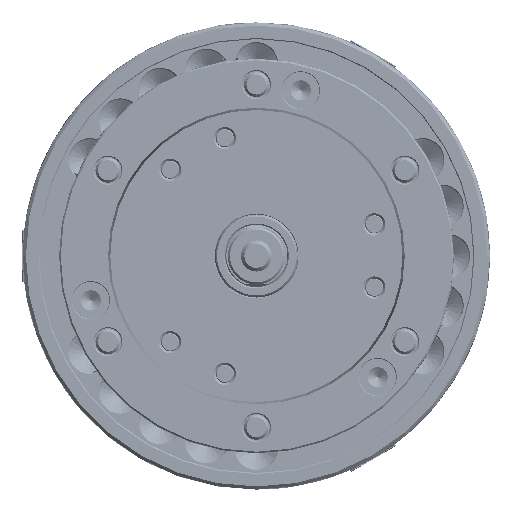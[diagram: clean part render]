
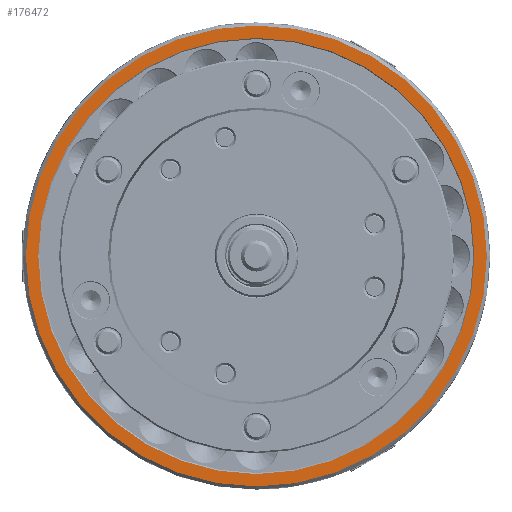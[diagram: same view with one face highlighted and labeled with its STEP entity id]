
A CAD part, left-side view. The second image highlights one B-rep face of the part: STEP entity #176472.
In plain terms, the highlighted planar face has unit normal (-1, 0, 0).
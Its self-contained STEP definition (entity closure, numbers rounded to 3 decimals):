
#1367 = CARTESIAN_POINT ( 'NONE',  ( -116., 0., 0. ) ) ;
#10298 = AXIS2_PLACEMENT_3D ( 'NONE', #47309, #185845, #205215 ) ;
#17346 = PLANE ( 'NONE',  #191134 ) ;
#21084 = CARTESIAN_POINT ( 'NONE',  ( -116., 0., -222. ) ) ;
#28638 = EDGE_CURVE ( 'NONE', #47845, #189053, #178661, .T. ) ;
#36732 = FACE_BOUND ( 'NONE', #57390, .T. ) ;
#39288 = FACE_OUTER_BOUND ( 'NONE', #193377, .T. ) ;
#44017 = DIRECTION ( 'NONE',  ( -1., 0., 0. ) ) ;
#47309 = CARTESIAN_POINT ( 'NONE',  ( -116., 0., 0. ) ) ;
#47845 = VERTEX_POINT ( 'NONE', #21084 ) ;
#50626 = VERTEX_POINT ( 'NONE', #131696 ) ;
#57390 = EDGE_LOOP ( 'NONE', ( #91051, #65603 ) ) ;
#59275 = EDGE_CURVE ( 'NONE', #189053, #47845, #211540, .T. ) ;
#59932 = ORIENTED_EDGE ( 'NONE', *, *, #28638, .T. ) ;
#65237 = EDGE_CURVE ( 'NONE', #117627, #50626, #163138, .T. ) ;
#65603 = ORIENTED_EDGE ( 'NONE', *, *, #65237, .F. ) ;
#67176 = CARTESIAN_POINT ( 'NONE',  ( -116., 0., -210. ) ) ;
#70494 = EDGE_CURVE ( 'NONE', #50626, #117627, #118729, .T. ) ;
#79314 = AXIS2_PLACEMENT_3D ( 'NONE', #177795, #214046, #120763 ) ;
#91051 = ORIENTED_EDGE ( 'NONE', *, *, #70494, .F. ) ;
#108170 = ORIENTED_EDGE ( 'NONE', *, *, #59275, .T. ) ;
#108238 = AXIS2_PLACEMENT_3D ( 'NONE', #1367, #44017, #159308 ) ;
#117627 = VERTEX_POINT ( 'NONE', #67176 ) ;
#118729 = CIRCLE ( 'NONE', #127037, 210. ) ;
#120763 = DIRECTION ( 'NONE',  ( 0., 0., 1. ) ) ;
#127037 = AXIS2_PLACEMENT_3D ( 'NONE', #163195, #146298, #242079 ) ;
#131696 = CARTESIAN_POINT ( 'NONE',  ( -116., 0., 210. ) ) ;
#140207 = DIRECTION ( 'NONE',  ( 0., 0., -1. ) ) ;
#146298 = DIRECTION ( 'NONE',  ( -1., 0., 0. ) ) ;
#148672 = CARTESIAN_POINT ( 'NONE',  ( -116., 0., 222. ) ) ;
#157092 = DIRECTION ( 'NONE',  ( 1., 0., 0. ) ) ;
#159308 = DIRECTION ( 'NONE',  ( 0., 0., 1. ) ) ;
#163138 = CIRCLE ( 'NONE', #10298, 210. ) ;
#163195 = CARTESIAN_POINT ( 'NONE',  ( -116., 0., 0. ) ) ;
#176472 = ADVANCED_FACE ( 'NONE', ( #36732, #39288 ), #17346, .F. ) ;
#177795 = CARTESIAN_POINT ( 'NONE',  ( -116., 0., 0. ) ) ;
#178661 = CIRCLE ( 'NONE', #79314, 222. ) ;
#185845 = DIRECTION ( 'NONE',  ( -1., 0., 0. ) ) ;
#189053 = VERTEX_POINT ( 'NONE', #148672 ) ;
#191134 = AXIS2_PLACEMENT_3D ( 'NONE', #219166, #157092, #140207 ) ;
#193377 = EDGE_LOOP ( 'NONE', ( #59932, #108170 ) ) ;
#205215 = DIRECTION ( 'NONE',  ( 0., 0., 1. ) ) ;
#211540 = CIRCLE ( 'NONE', #108238, 222. ) ;
#214046 = DIRECTION ( 'NONE',  ( -1., 0., 0. ) ) ;
#219166 = CARTESIAN_POINT ( 'NONE',  ( -116., 222., 0. ) ) ;
#242079 = DIRECTION ( 'NONE',  ( 0., 0., 1. ) ) ;
